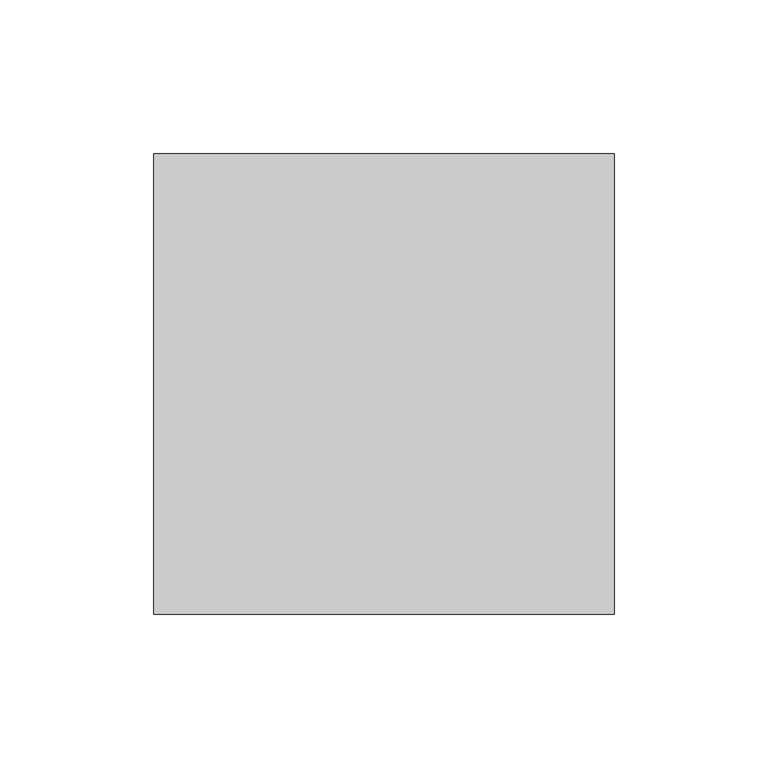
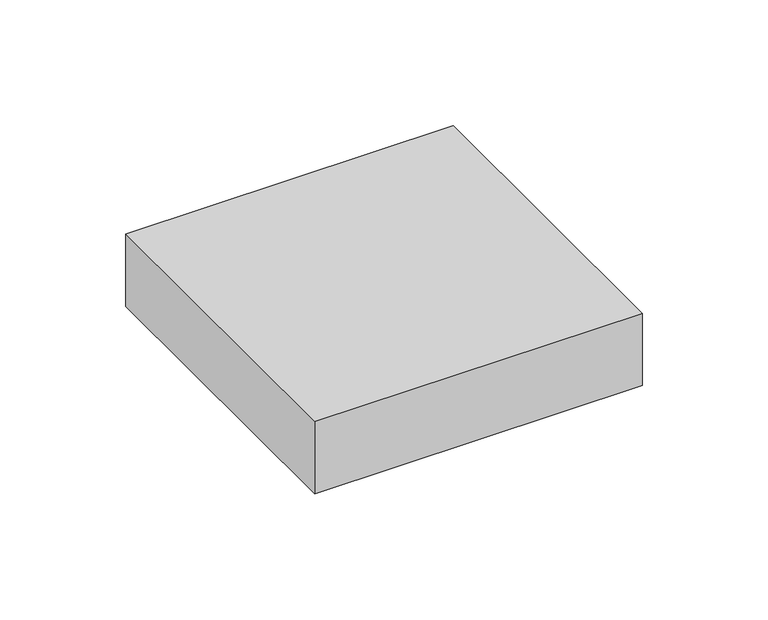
"""IFC4 building model written with IfcOpenShell, lengths in millimetres: furniture geometry, Pixel_Multiple : Pixel_Multiple."""

from ifc_helpers import new_model, si_unit, origin, origin_with_axes, place, context, project, spatial, polyline, outline, extrude, source, transform, mapped, element, save


def furniture_b8ba6693(model_context):
    return source(origin(), model_context, "Body", "SweptSolid", [
        extrude(outline(polyline([(150.0, 0.0), (0.0, 0.0), (0.0, 150.0), (150.0, 150.0), (150.0, 0.0)])), origin_with_axes(), (0.0, 0.0, 1.0), 35.0),
    ])


if __name__ == "__main__":
    model = new_model("IFC4")
    model_context = context("Model", 3, world=origin())
    ifc_project = project(units=[si_unit("LENGTHUNIT", "METRE", prefix="MILLI")], contexts=[model_context])
    site = spatial("IfcSite", under=ifc_project)
    building = spatial("IfcBuilding", under=site)
    placement = place(None, origin())
    furniture_shape = furniture_b8ba6693(model_context)
    element("IfcFurniture", 1, ObjectType="Pixel_Multiple : Pixel_Multiple", at=placement, inside=building, context=model_context, shape_type="MappedRepresentation", body=[
        mapped(furniture_shape, transform((0.0, 0.0, 0.0), x_axis=(1.0, 0.0, 0.0), y_axis=(0.0, 1.0, 0.0), z_axis=(0.0, 0.0, 1.0))),
    ])
    save(model, "model.ifc")
